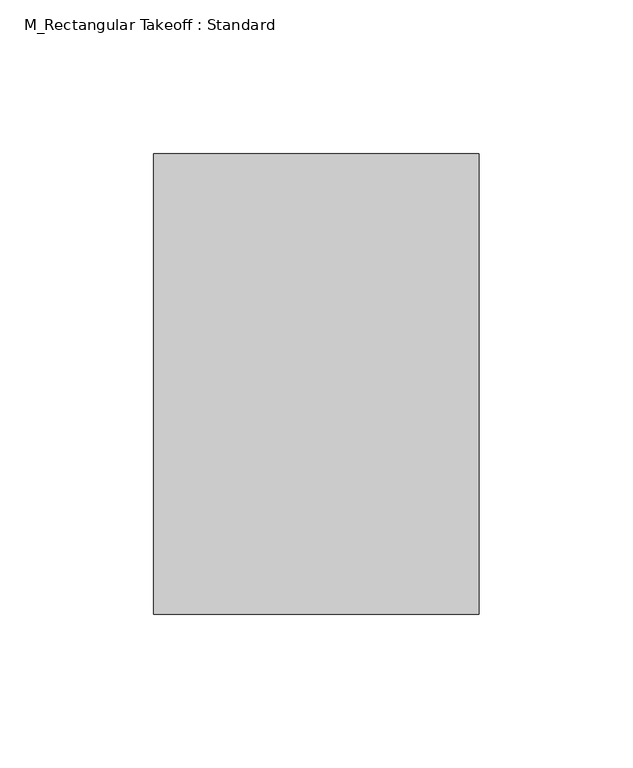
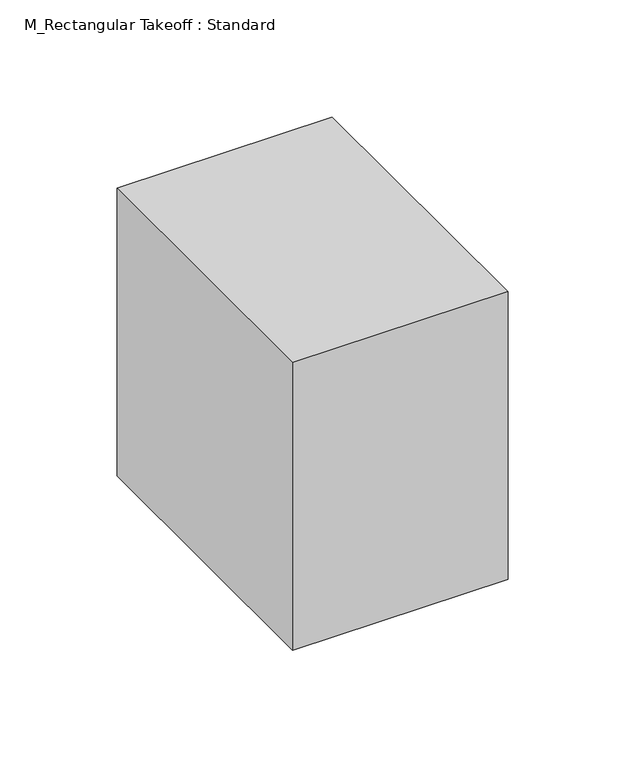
"""IFC4 building model written with IfcOpenShell, lengths in millimetres: duct fitting geometry, M_Rectangular Takeoff : Standard."""

from ifc_helpers import new_model, si_unit, frame, origin, place, context, project, spatial, polyline, outline, extrude, source, transform, mapped, element, save


def m_rectangular_takeoff_standard_f8aabef9(model_context):
    return source(origin(), model_context, "Body", "SweptSolid", [
        extrude(outline(polyline([(-6.096, 75.0), (100.0, 75.0), (100.0, -75.0), (-6.096, -75.0), (-6.096, 75.0)])), frame((0.0, 0.0, -75.0), z_axis=(0.0, 0.0, 1.0), x_axis=(1.0, 0.0, 0.0)), (0.0, 0.0, 1.0), 150.0),
        extrude(outline(polyline([(-6.096, 75.0), (100.0, 75.0), (100.0, -75.0), (-6.096, -75.0), (-6.096, 75.0)])), frame((0.0, 0.0, -75.0), z_axis=(0.0, 0.0, 1.0), x_axis=(1.0, 0.0, 0.0)), (0.0, 0.0, 1.0), 150.0),
        extrude(outline(polyline([(-6.096, 75.0), (100.0, 75.0), (100.0, -75.0), (-6.096, -75.0), (-6.096, 75.0)])), frame((0.0, 0.0, -75.0), z_axis=(0.0, 0.0, 1.0), x_axis=(1.0, 0.0, 0.0)), (0.0, 0.0, 1.0), 150.0),
    ])


if __name__ == "__main__":
    model = new_model("IFC4")
    model_context = context("Model", 3, world=origin())
    ifc_project = project(units=[si_unit("LENGTHUNIT", "METRE", prefix="MILLI")], contexts=[model_context])
    site = spatial("IfcSite", under=ifc_project)
    building = spatial("IfcBuilding", under=site)
    placement = place(None, origin())
    m_rectangular_takeoff_standard_shape = m_rectangular_takeoff_standard_f8aabef9(model_context)
    element("IfcDuctFitting", 1, ObjectType="M_Rectangular Takeoff : Standard", at=placement, inside=building, context=model_context, shape_type="MappedRepresentation", body=[
        mapped(m_rectangular_takeoff_standard_shape, transform((0.0, 0.0, 0.0), x_axis=(1.0, 0.0, 0.0), y_axis=(0.0, 1.0, 0.0), z_axis=(0.0, 0.0, 1.0))),
    ])
    save(model, "model.ifc")
